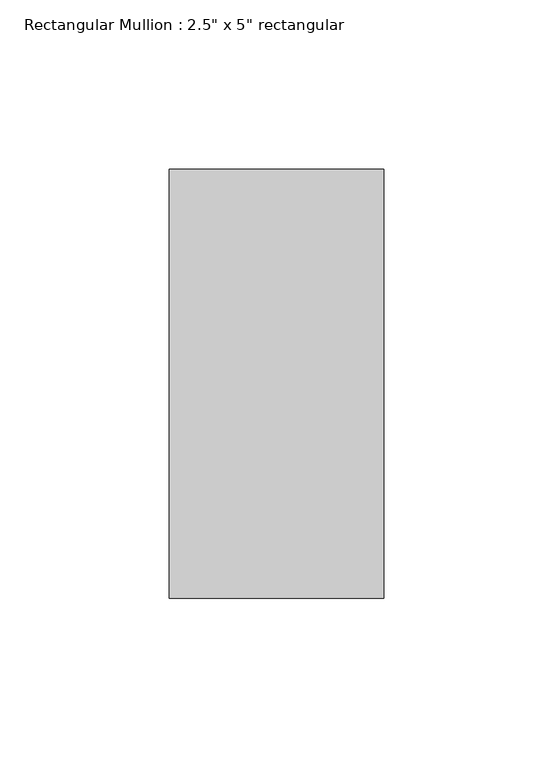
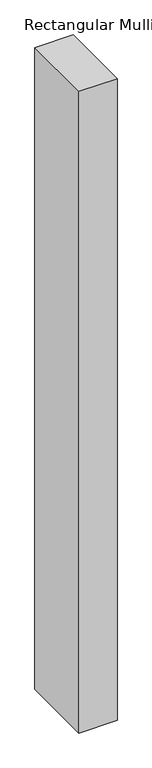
"""IFC4 building model written with IfcOpenShell, lengths in millimetres: member geometry."""

from ifc_helpers import new_model, si_unit, frame, origin, place, context, project, spatial, polyline, outline, extrude, source, transform, mapped, element, save


def member_4904f910(model_context):
    return source(origin(), model_context, "Body", "SweptSolid", [
        extrude(outline(polyline([(31.75, 63.5), (31.75, -63.5), (-31.75, -63.5), (-31.75, 63.5), (31.75, 63.5)])), frame((0.0, 0.0, -1130.3), z_axis=(0.0, 0.0, 1.0), x_axis=(1.0, 0.0, 0.0)), (0.0, 0.0, 1.0), 1130.3),
    ])


if __name__ == "__main__":
    model = new_model("IFC4")
    model_context = context("Model", 3, world=origin())
    ifc_project = project(units=[si_unit("LENGTHUNIT", "METRE", prefix="MILLI")], contexts=[model_context])
    site = spatial("IfcSite", under=ifc_project)
    building = spatial("IfcBuilding", under=site)
    placement = place(None, origin())
    member_shape = member_4904f910(model_context)
    element("IfcMember", 1, ObjectType="Rectangular Mullion : 2.5\" x 5\" rectangular", at=placement, inside=building, context=model_context, shape_type="MappedRepresentation", body=[
        mapped(member_shape, transform((0.0, 0.0, 0.0), x_axis=(1.0, 0.0, 0.0), y_axis=(0.0, 1.0, 0.0), z_axis=(0.0, 0.0, 1.0))),
    ])
    save(model, "model.ifc")
